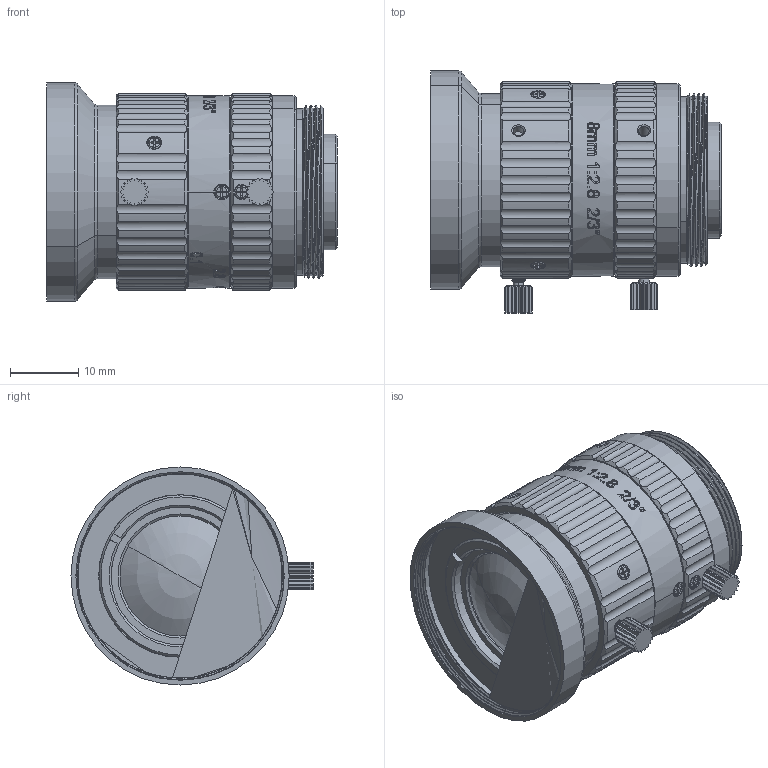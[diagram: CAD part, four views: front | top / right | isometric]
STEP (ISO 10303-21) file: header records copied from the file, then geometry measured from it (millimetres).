
FILE_DESCRIPTION((''),'2;1');
FILE_NAME('FA0810A-200_ASM_ASM','2018-08-24T',('Administrator'),(''),'PRO/ENGINEER BY PARAMETRIC TECHNOLOGY CORPORATION, 2010370','PRO/ENGINEER BY PARAMETRIC TECHNOLOGY CORPORATION, 2010370','');
FILE_SCHEMA(('CONFIG_CONTROL_DESIGN'));
Products named in the file (23): MSBR-78; MSBR-76; MSBR-74; MSBR-65; MSBR-64; MSBR-63; MSBR-62; MSBR-27; MSBR-26; MSBR-25; MSBR-24; MSBR-23; MSBR-22; MSBR-21; MSBR-20; MSBR-18; MSBR-17; MSBR-7; MSBR-6; MSBR-5; MSBR-4; MSBR-2; FA0810A-200_ASM_ASM
Assembly tree (22 placements, depth 2):
  FA0810A-200_ASM_ASM
    MSBR-78
    MSBR-76
    MSBR-74
    MSBR-65
    MSBR-64
    MSBR-63
    MSBR-62
    MSBR-27
    MSBR-26
    MSBR-25
    MSBR-24
    MSBR-23
    MSBR-22
    MSBR-21
    MSBR-20
    MSBR-18
    MSBR-17
    MSBR-7
    MSBR-6
    MSBR-5
    MSBR-4
    MSBR-2
Bounding box: 42.62 x 35.5 x 32 mm (x, y, z)
Volume: 12142.1 mm3; surface area: 14874.8 mm2
Topology: 22 solids, 22 shells, 1513 faces, 3947 edges, 2549 vertices
Faces by surface type: bspline 456, cylinder 439, plane 352, cone 210, torus 40, sphere 12, extrusion 4
Entity records: 75425 total; most frequent: CARTESIAN_POINT 40904, ORIENTED_EDGE 7866, DIRECTION 5828, EDGE_CURVE 3933, VERTEX_POINT 2548, AXIS2_PLACEMENT_3D 2149, EDGE_LOOP 1647, VECTOR 1530
